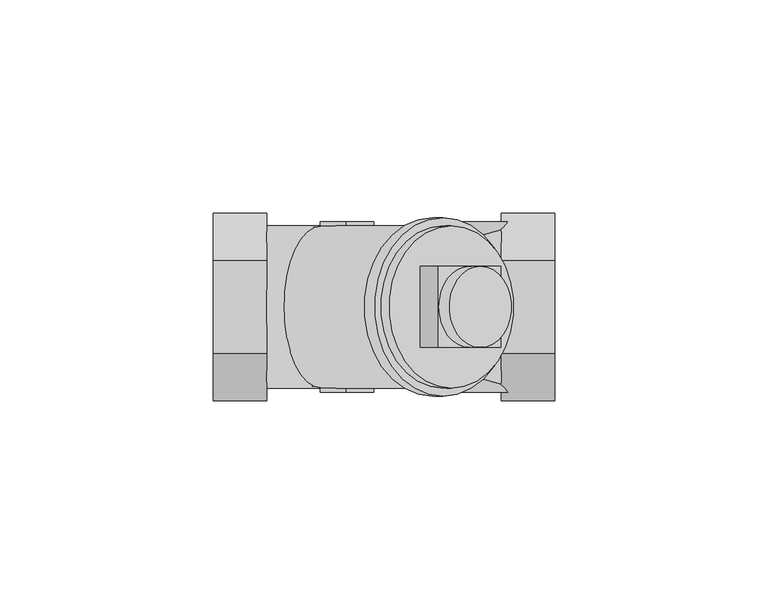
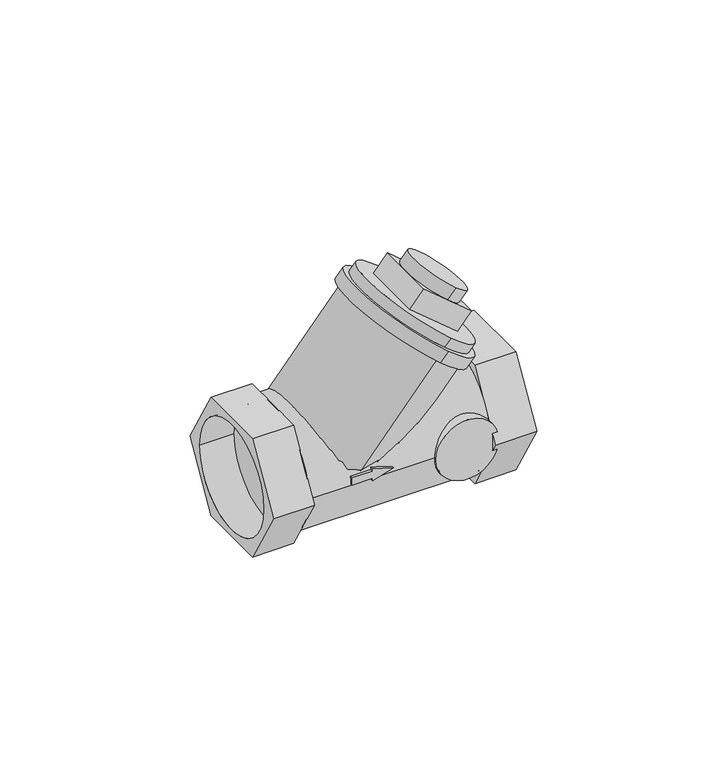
"""IFC4 building model written with IfcOpenShell, lengths in millimetres: valve geometry, 400_5-_KOMF_terugslagklep_PN_25_brons_DN15-50 : DN25 1''."""

import ifcopenshell
import ifcopenshell.guid

model = None  # the IFC model being written
_history = None  # IfcOwnerHistory: only IFC2X3 demands one
_inside = {}  # id of a spatial element -> (the spatial element, [elements in it])
_under = {}  # id of a project, library or spatial element -> (it, [spatial elements below it])
_declared = {}  # id of a project -> (the project, [libraries it declares])
_typed = {}  # id of a type object -> (the type object, [elements of that type])
_made_of = {}  # id of a material, layer set ... -> (it, [elements and type objects made of it])


def new_model(schema):
    """Start an empty IFC model of exactly this schema.

    Asked for "IFC4X3", IfcOpenShell would pick the latest addendum, in which some entities
    have other attributes; the version numbers below select the first issue.
    IFC2X3 requires an IfcOwnerHistory on every rooted entity: one is made here for all.
    """
    global model, _history
    if schema == "IFC4X3":
        model = ifcopenshell.file(schema_version=(4, 3, 0, 0))
    else:
        model = ifcopenshell.file(schema=schema)
    _inside.clear()
    _under.clear()
    _declared.clear()
    _typed.clear()
    _made_of.clear()
    _history = None
    if model.schema == "IFC2X3":
        org = make("IfcOrganization", Name="unknown")
        user = make(
            "IfcPersonAndOrganization",
            ThePerson=make("IfcPerson", FamilyName="unknown"),
            TheOrganization=org,
        )
        app = make(
            "IfcApplication",
            ApplicationDeveloper=org,
            Version="unknown",
            ApplicationFullName="unknown",
            ApplicationIdentifier="unknown",
        )
        _history = make(
            "IfcOwnerHistory",
            OwningUser=user,
            OwningApplication=app,
            ChangeAction="ADDED",
            CreationDate=0,
        )
    return model


def make(cls, **values):
    """One entity of the class cls with the attributes given. An attribute that is None is left unset."""
    return model.create_entity(
        cls, **{name: value for name, value in values.items() if value is not None}
    )


def rooted(cls, **values):
    """An entity with a GlobalId (a new one), such as an element, a storey or a relation."""
    return make(cls, GlobalId=ifcopenshell.guid.new(), OwnerHistory=_history, **values)


def si_unit(unit_type, name, prefix=None):
    """IfcSIUnit, for example si_unit("LENGTHUNIT", "METRE", prefix="MILLI")."""
    return make("IfcSIUnit", UnitType=unit_type, Prefix=prefix, Name=name)


def assignment(units):
    """IfcUnitAssignment: the units of a project."""
    return None if units is None else make("IfcUnitAssignment", Units=units)


def point(xyz):
    """IfcCartesianPoint."""
    return None if xyz is None else make("IfcCartesianPoint", Coordinates=xyz)


def direction(xyz):
    """IfcDirection."""
    return None if xyz is None else make("IfcDirection", DirectionRatios=xyz)


def frame(location, z_axis=None, x_axis=None):
    """IfcAxis2Placement3D, a coordinate frame: its origin and axes. An axis left out is left unset."""
    return make(
        "IfcAxis2Placement3D",
        Location=point(location),
        Axis=direction(z_axis),
        RefDirection=direction(x_axis),
    )


def frame_2d(location, x_axis=None):
    """IfcAxis2Placement2D, a coordinate frame in the plane: its origin and x axis."""
    return make(
        "IfcAxis2Placement2D", Location=point(location), RefDirection=direction(x_axis)
    )


def origin():
    """The frame at (0, 0, 0) with its axes left unset."""
    return frame((0.0, 0.0, 0.0))


def origin_2d():
    """The frame at (0, 0) in the plane with its x axis left unset."""
    return frame_2d((0.0, 0.0))


def place(relative_to, where):
    """IfcLocalPlacement: puts the frame where relative to a parent placement (None: the world)."""
    return make(
        "IfcLocalPlacement", PlacementRelTo=relative_to, RelativePlacement=where
    )


def context(
    kind, dimensions, precision=None, world=None, true_north=None, identifier=None
):
    """IfcGeometricRepresentationContext, for example the 3D "Model" context."""
    return make(
        "IfcGeometricRepresentationContext",
        ContextIdentifier=identifier,
        ContextType=kind,
        CoordinateSpaceDimension=dimensions,
        Precision=precision,
        WorldCoordinateSystem=world,
        TrueNorth=true_north,
    )


def project(units=None, contexts=None):
    """IfcProject with its units and contexts."""
    return rooted(
        "IfcProject",
        Name="project",
        RepresentationContexts=contexts,
        UnitsInContext=assignment(units),
    )


def spatial(cls, under=None, at=None, **own):
    """A site, building, storey or space (cls), placed at a placement, below another one or the project."""
    s = rooted(cls, ObjectPlacement=at, **own)
    if under is not None:
        _under.setdefault(under.id(), (under, []))[1].append(s)
    return s


def polyline(points):
    """IfcPolyline through the points."""
    return make("IfcPolyline", Points=[point(p) for p in points])


def circle_curve(where, radius):
    """IfcCircle in the frame where."""
    return make("IfcCircle", Position=where, Radius=radius)


def ellipse_curve(where, semi_axis1, semi_axis2):
    """IfcEllipse in the frame where."""
    return make(
        "IfcEllipse", Position=where, SemiAxis1=semi_axis1, SemiAxis2=semi_axis2
    )


def trimmed(basis, trim1, trim2, sense, master):
    """IfcTrimmedCurve: the piece of a basis curve between two trims."""
    return make(
        "IfcTrimmedCurve",
        BasisCurve=basis,
        Trim1=trim1,
        Trim2=trim2,
        SenseAgreement=sense,
        MasterRepresentation=master,
    )


def segment(curve, same_sense, transition):
    """IfcCompositeCurveSegment."""
    return make(
        "IfcCompositeCurveSegment",
        Transition=transition,
        SameSense=same_sense,
        ParentCurve=curve,
    )


def composite_curve(segments, self_intersect=None):
    """IfcCompositeCurve: segments joined end to end."""
    return make("IfcCompositeCurve", Segments=segments, SelfIntersect=self_intersect)


def outline(outer, holes=None, kind="AREA"):
    """IfcArbitraryClosedProfileDef: a profile drawn as a closed curve; with holes, ...WithVoids."""
    if holes is None:
        return make("IfcArbitraryClosedProfileDef", ProfileType=kind, OuterCurve=outer)
    return make(
        "IfcArbitraryProfileDefWithVoids",
        ProfileType=kind,
        OuterCurve=outer,
        InnerCurves=holes,
    )


def extrude(swept, where, along, depth):
    """IfcExtrudedAreaSolid: the profile swept, set in the frame where, extruded along a direction by depth."""
    return make(
        "IfcExtrudedAreaSolid",
        SweptArea=swept,
        Position=where,
        ExtrudedDirection=direction(along),
        Depth=depth,
    )


def shape(context_of_items, identifier, shape_type, items):
    """IfcShapeRepresentation: the items that make up one representation, for example the "Body"."""
    return make(
        "IfcShapeRepresentation",
        ContextOfItems=context_of_items,
        RepresentationIdentifier=identifier,
        RepresentationType=shape_type,
        Items=items,
    )


def source(mapping_origin, context_of_items, identifier, shape_type, items):
    """IfcRepresentationMap: a shape defined once, which mapped items show again and again."""
    return make(
        "IfcRepresentationMap",
        MappingOrigin=mapping_origin,
        MappedRepresentation=shape(context_of_items, identifier, shape_type, items),
    )


def transform(
    local_origin,
    x_axis=None,
    y_axis=None,
    z_axis=None,
    scale=None,
    scale2=None,
    scale3=None,
    uniform=True,
):
    """IfcCartesianTransformationOperator3D, or its non-uniform kind. x_axis, y_axis, z_axis: its Axis1, 2, 3."""
    if uniform:
        return make(
            "IfcCartesianTransformationOperator3D",
            Axis1=direction(x_axis),
            Axis2=direction(y_axis),
            LocalOrigin=point(local_origin),
            Scale=scale,
            Axis3=direction(z_axis),
        )
    return make(
        "IfcCartesianTransformationOperator3DnonUniform",
        Axis1=direction(x_axis),
        Axis2=direction(y_axis),
        LocalOrigin=point(local_origin),
        Scale=scale,
        Axis3=direction(z_axis),
        Scale2=scale2,
        Scale3=scale3,
    )


def mapped(mapping_source, mapping_target):
    """IfcMappedItem: shows the shape of a source again, moved by a transform."""
    return make(
        "IfcMappedItem", MappingSource=mapping_source, MappingTarget=mapping_target
    )


def made_of(thing, what):
    """Note that an element or type object is made of a material, layer set ...; save() writes the relation."""
    if what is not None:
        _made_of.setdefault(what.id(), (what, []))[1].append(thing)
    return thing


def element(
    cls,
    number,
    at=None,
    inside=None,
    cuts=None,
    type_object=None,
    material=None,
    context=None,
    identifier="Body",
    shape_type=None,
    held_by="IfcProductDefinitionShape",
    body=None,
    shapes=None,
    **own,
):
    """One element of the class cls, such as IfcWall. Its Tag is "e" and its number.

    at: its placement. inside: the storey or other place that contains it. cuts: it is an
    opening in that element (IfcRelVoidsElement). A single representation is given by context,
    identifier, shape_type and body (its items); several are given by shapes. held_by: the class
    of the entity that holds the representations. save() writes the other relations.
    """
    e = rooted(cls, Tag="e%d" % number, ObjectPlacement=at, **own)
    if body is not None:
        shapes = [shape(context, identifier, shape_type, body)]
    if shapes is not None:
        e.Representation = make(held_by, Representations=shapes)
    if inside is not None:
        _inside.setdefault(inside.id(), (inside, []))[1].append(e)
    if cuts is not None:
        rooted(
            "IfcRelVoidsElement", RelatingBuildingElement=cuts, RelatedOpeningElement=e
        )
    if type_object is not None:
        _typed.setdefault(type_object.id(), (type_object, []))[1].append(e)
    return made_of(e, material)


def aggregate(whole, parts):
    """IfcRelAggregates: a whole, such as a stair, and the parts it consists of."""
    return rooted("IfcRelAggregates", RelatingObject=whole, RelatedObjects=parts)


def save(model, path):
    """Write the relations noted so far, then the file.

    IfcRelAggregates (storeys below a building ...), IfcRelContainedInSpatialStructure (elements
    in a storey), IfcRelDefinesByType, IfcRelAssociatesMaterial and IfcRelDeclares: one each for
    every whole, place, type object, material and project.
    """
    for whole, parts in _under.values():
        aggregate(whole, parts)
    for where, things in _inside.values():
        rooted(
            "IfcRelContainedInSpatialStructure",
            RelatedElements=things,
            RelatingStructure=where,
        )
    for kind, things in _typed.values():
        rooted("IfcRelDefinesByType", RelatedObjects=things, RelatingType=kind)
    for what, things in _made_of.values():
        rooted("IfcRelAssociatesMaterial", RelatedObjects=things, RelatingMaterial=what)
    for by, libraries in _declared.values():
        rooted("IfcRelDeclares", RelatingContext=by, RelatedDefinitions=libraries)
    model.write(path)


def plane_surface(at):
    """IfcPlane: the flat surface through the origin of the frame at, square to its z axis."""
    return make("IfcPlane", Position=at)


def cylinder_surface(at, radius):
    """IfcCylindricalSurface: all points at the distance radius from the z axis of the frame at."""
    return make("IfcCylindricalSurface", Position=at, Radius=radius)


def revolved_surface(curve, axis_point, axis_direction):
    """IfcSurfaceOfRevolution: the curve turned about the line through axis_point along axis_direction."""
    return make(
        "IfcSurfaceOfRevolution",
        SweptCurve=make("IfcArbitraryOpenProfileDef", ProfileType="CURVE", Curve=curve),
        AxisPosition=make("IfcAxis1Placement", Location=point(axis_point), Axis=direction(axis_direction)),
    )


def advanced_brep(points, edges, surfaces, faces):
    """IfcAdvancedBrep: a solid bounded by faces that lie on surfaces and meet in shared edges.

    An edge is (start, end): straight between two places in points (the first is 0);
    or (start, end, curve); or (start, end, curve, False) where it runs against its curve.
    A face is (place in surfaces, loops), or (place, loops, False) where it looks against
    its surface's normal. A loop lists edges by number (the first is 1), with a minus sign
    where the edge is run from its end to its start. The first loop is the outer one.
    """
    corners = [point(p) for p in points]
    vertices = [make("IfcVertexPoint", VertexGeometry=c) for c in corners]
    made = []
    for start, end, *more in edges:
        made.append(
            make(
                "IfcEdgeCurve",
                EdgeStart=vertices[start],
                EdgeEnd=vertices[end],
                EdgeGeometry=more[0] if more else make("IfcPolyline", Points=[corners[start], corners[end]]),
                SameSense=more[1] if len(more) > 1 else True,
            )
        )
    hull = []
    for where, loops, *sense in faces:
        bounds = []
        for j, loop in enumerate(loops):
            ring = [make("IfcOrientedEdge", EdgeElement=made[abs(k) - 1], Orientation=k > 0) for k in loop]
            bounds.append(
                make(
                    "IfcFaceOuterBound" if j == 0 else "IfcFaceBound",
                    Bound=make("IfcEdgeLoop", EdgeList=ring),
                    Orientation=True,
                )
            )
        hull.append(make("IfcAdvancedFace", Bounds=bounds, FaceSurface=surfaces[where], SameSense=sense[0] if sense else True))
    return make("IfcAdvancedBrep", Outer=make("IfcClosedShell", CfsFaces=hull))


def valve_452bbaa6(model_context):
    return source(origin(), model_context, "Body", "SolidModel", [
        extrude(outline(composite_curve([segment(trimmed(circle_curve(origin_2d(), 19.0), [point((-19.0, 0.0))], [point((19.0, 0.0))], False, "CARTESIAN"), True, "CONTINUOUS"), segment(trimmed(circle_curve(origin_2d(), 19.0), [point((19.0, 0.0))], [point((-19.0, 0.0))], False, "CARTESIAN"), True, "CONTINUOUS")], self_intersect=False)), frame((-35.9929699, 0.0, 0.0), z_axis=(1.0, 0.0, 0.0), x_axis=(0.0, 1.0, 0.0)), (0.0, 0.0, 1.0), 54.9929669),
        extrude(outline(composite_curve([segment(trimmed(circle_curve(frame_2d((0.0, 11.499997)), 9.5), [point((0.0, 1.999997))], [point((0.0, 20.999997))], False, "CARTESIAN"), True, "CONTINUOUS"), segment(trimmed(circle_curve(frame_2d((0.0, 11.499997)), 9.5), [point((0.0, 20.999997))], [point((0.0, 1.999997))], False, "CARTESIAN"), True, "CONTINUOUS")], self_intersect=False)), frame((0.0, -20.0, 0.0), z_axis=(0.0, 1.0, 0.0), x_axis=(0.0, 0.0, 1.0)), (0.0, 0.0, 1.0), 40.0),
        advanced_brep(
        [(-35.9929699, -10.9696551, 19.0), (-35.9929699, -16.4544827, 9.5), (-35.9929699, -21.9393102, 0.0), (-35.9929699, -16.4544827, -9.5), (-35.9929699, -10.9696551, -19.0), (-35.9929699, 0.0, -19.0), (-35.9929699, 10.9696551, -19.0), (-35.9929699, 16.4544827, -9.5), (-35.9929699, 21.9393102, 0.0), (-35.9929699, 16.4544827, 9.5), (-35.9929699, 10.9696551, 19.0), (-35.9929699, 0.0, 19.0), (-35.9929699, 9.6278481, 10.5288638), (-35.9929699, -9.6278481, 10.5288638), (-48.500003, -10.9696551, 19.0), (-48.500003, 10.9696551, 19.0), (-48.500003, 21.9393102, 0.0), (-48.500003, 10.9696551, -19.0), (-48.500003, -10.9696551, -19.0), (-48.500003, -21.9393102, 0.0), (-48.500003, -16.85, 0.0), (-48.500003, 16.85, 0.0), (-38.000003, -16.85, 0.0), (-38.000003, 16.85, 0.0), (31.499997, -10.9696551, 19.0), (31.499997, -21.9393102, 0.0), (31.499997, -10.9696551, -19.0), (31.499997, 10.9696551, -19.0), (31.499997, 21.9393102, 0.0), (31.499997, 10.9696551, 19.0), (31.499997, 16.85, 0.0), (31.499997, -16.85, 0.0), (18.999997, 4.9641122, 19.0), (18.999997, 10.9696551, 19.0), (18.999997, 16.4544827, 9.5), (18.999997, 21.9393102, 0.0), (18.999997, 16.4544827, -9.5), (18.999997, 10.9696551, -19.0), (18.999997, 0.0, -19.0), (18.999997, -10.9696551, -19.0), (18.999997, -16.4544827, -9.5), (18.999997, -21.9393102, 0.0), (18.999997, -16.4544827, 9.5), (18.999997, -10.9696551, 19.0), (18.999997, -4.9641122, 19.0), (18.999997, -3.8094128, 18.6141982), (18.999997, 3.8094128, 18.6141982), (-23.4451586, -20.0, 3.1116273), (-23.4451586, -20.0, 0.829442), (-17.303428, -20.0, 0.829442), (-17.303428, -20.0, 0.0332575), (-10.8483948, -20.0, 1.9705347), (-17.303428, -20.0, 3.9078118), (-17.303428, -20.0, 3.1116273), (-23.4451586, 20.0, 3.1116273), (-17.303428, 20.0, 3.1116273), (-17.303428, 20.0, 3.9078118), (-10.8483948, 20.0, 1.9705347), (-17.303428, 20.0, 0.0332575), (-17.303428, 20.0, 0.829442), (-23.4451586, 20.0, 0.829442), (-23.4451586, -18.8944314, 3.1116273), (-23.4451586, -18.9925182, 0.829442), (-23.4451586, 18.9925182, 0.829442), (-23.4451586, 18.8944314, 3.1116273), (-22.7491741, -19.0, 0.829442), (-21.6664145, -18.9818868, 0.829442), (-17.303428, -18.5363712, 0.829442), (-17.303428, -18.9818868, 0.829442), (-17.303428, 18.9818868, 0.829442), (-17.303428, 18.5363712, 0.829442), (-21.6664145, 18.9818868, 0.829442), (-22.7491741, 19.0, 0.829442), (-17.303428, -18.4137229, 0.0332575), (-17.303428, -18.9999709, 0.0332575), (-17.303428, 18.9999709, 0.0332575), (-17.303428, 18.4137229, 0.0332575), (-10.8483948, -17.0506465, 1.9705347), (-10.8483948, -18.8975393, 1.9705347), (-10.8483948, 18.8975393, 1.9705347), (-10.8483948, 17.0506465, 1.9705347), (-15.9414242, -18.6750276, 3.4990488), (-17.303428, -18.8730228, 3.9078118), (-17.303428, 18.8730228, 3.9078118), (-15.9414242, 18.6750276, 3.4990488), (-17.303428, -18.8065008, 3.1116273), (-17.303428, 18.8065008, 3.1116273), (-20.8341933, -19.0, 3.1116273), (-20.8341933, 19.0, 3.1116273), (18.8058001, 0.0, 35.5733555), (18.8058001, 9.5, 35.5733555), (11.5283779, 9.5, 41.6798378), (4.2509557, 9.5, 47.7863201), (4.2509557, 0.0, 47.7863201), (4.2509557, -9.5, 47.7863201), (11.5283779, -9.5, 41.6798378), (18.8058001, -9.5, 35.5733555), (0.024714, 9.5, 42.7496814), (0.024714, -9.5, 42.7496814), (14.5795584, -9.5, 30.5367168), (14.5795584, 9.5, 30.5367168), (-23.4451586, -19.0, 0.0), (2.9230903, -19.0, 31.4244553), (2.9230903, 19.0, 31.4244553), (-23.4451586, 19.0, 0.0), (5.3604438, 20.9, 34.3291801), (5.3604438, -20.9, 34.3291801), (5.3604438, 19.0, 34.3291801), (5.3604438, -19.0, 34.3291801), (7.3021362, -19.0, 36.6431991), (7.3021362, 19.0, 36.6431991), (14.0957503, 9.5, 44.739513), (14.0957503, -9.5, 44.739513), (2.9230903, -20.9, 31.4244553), (2.9230903, 20.9, 31.4244553), (18.4903984, 4.8825631, 18.3619328), (18.4903984, -4.8825631, 18.3619328), (20.999997, -16.85, 0.0), (20.999997, 16.85, 0.0)],
        [
            (0, 1),
            (1, 2),
            (2, 3),
            (3, 4),
            (4, 5),
            (5, 6),
            (6, 7),
            (7, 8),
            (8, 9),
            (9, 10),
            (10, 11),
            (11, 0),
            (12, 13),
            (13, 12, ellipse_curve(frame((-35.9929699, 0.0, -14.9538992), z_axis=(-1.0, 0.0, 0.0), x_axis=(0.0, 0.0, 1.0)), 29.5587527, 19.0)),
            (14, 15),
            (15, 16),
            (16, 17),
            (17, 18),
            (18, 19),
            (19, 14),
            (20, 21, circle_curve(frame((-48.500003, 0.0, 0.0), z_axis=(1.0, 0.0, 0.0), x_axis=(0.0, 1.0, 0.0)), 16.85)),
            (21, 20, circle_curve(frame((-48.500003, 0.0, 0.0), z_axis=(1.0, 0.0, 0.0), x_axis=(0.0, 1.0, 0.0)), 16.85)),
            (19, 2),
            (0, 14),
            (18, 4),
            (17, 6),
            (16, 8),
            (15, 10),
            (22, 23, circle_curve(frame((-38.000003, 0.0, 0.0), z_axis=(-1.0, 0.0, 0.0), x_axis=(0.0, 1.0, 0.0)), 16.85)),
            (23, 22, circle_curve(frame((-38.000003, 0.0, 0.0), z_axis=(-1.0, 0.0, 0.0), x_axis=(0.0, 1.0, 0.0)), 16.85)),
            (24, 25),
            (25, 26),
            (26, 27),
            (27, 28),
            (28, 29),
            (29, 24),
            (30, 31, circle_curve(frame((31.499997, 0.0, 0.0), z_axis=(-1.0, 0.0, 0.0), x_axis=(0.0, 1.0, 0.0)), 16.85)),
            (31, 30, circle_curve(frame((31.499997, 0.0, 0.0), z_axis=(-1.0, 0.0, 0.0), x_axis=(0.0, 1.0, 0.0)), 16.85)),
            (32, 33),
            (33, 34),
            (34, 35),
            (35, 36),
            (36, 37),
            (37, 38),
            (38, 39),
            (39, 40),
            (40, 41),
            (41, 42),
            (42, 43),
            (43, 44),
            (44, 45, ellipse_curve(frame((18.999997, 0.0, 50.5841667), z_axis=(1.0, 0.0, 0.0), x_axis=(0.0, 0.0, 1.0)), 32.514628, 20.9)),
            (45, 46, ellipse_curve(frame((18.999997, 0.0, 50.5841667), z_axis=(1.0, 0.0, 0.0), x_axis=(0.0, 0.0, 1.0)), 32.514628, 20.9)),
            (46, 32, ellipse_curve(frame((18.999997, 0.0, 50.5841667), z_axis=(1.0, 0.0, 0.0), x_axis=(0.0, 0.0, 1.0)), 32.514628, 20.9)),
            (24, 43),
            (41, 25),
            (39, 26),
            (37, 27),
            (35, 28),
            (33, 29),
            (32, 44, ellipse_curve(frame((-7.5022656, 0.0, 19.0), z_axis=(0.0, 0.0, -1.0), x_axis=(1.0, 0.0, 0.0)), 27.2830123, 20.9)),
            (47, 48),
            (48, 49),
            (49, 50),
            (50, 51),
            (51, 52),
            (52, 53),
            (53, 47),
            (54, 55),
            (55, 56),
            (56, 57),
            (57, 58),
            (58, 59),
            (59, 60),
            (60, 54),
            (47, 61),
            (61, 62, ellipse_curve(frame((-23.4451586, 0.0, 0.0), z_axis=(1.0, 0.0, 0.0), x_axis=(0.0, 0.0, 1.0)), 29.5587527, 19.0)),
            (62, 48),
            (60, 63),
            (63, 64, ellipse_curve(frame((-23.4451586, 0.0, 0.0), z_axis=(1.0, 0.0, 0.0), x_axis=(0.0, 0.0, 1.0)), 29.5587527, 19.0)),
            (64, 54),
            (62, 65, ellipse_curve(frame((-22.7491741, 0.0, 0.829442), z_axis=(0.0, 0.0, 1.0), x_axis=(1.0, 0.0, 0.0)), 24.8027385, 19.0)),
            (65, 66, ellipse_curve(frame((-22.7491741, 0.0, 0.829442), z_axis=(0.0, 0.0, 1.0), x_axis=(1.0, 0.0, 0.0)), 24.8027385, 19.0)),
            (66, 67, ellipse_curve(frame((-22.7491741, 0.0, 0.829442), z_axis=(0.0, 0.0, 1.0), x_axis=(1.0, 0.0, 0.0)), 24.8027385, 19.0)),
            (67, 68),
            (68, 49),
            (59, 69),
            (69, 70),
            (70, 71, ellipse_curve(frame((-22.7491741, 0.0, 0.829442), z_axis=(0.0, 0.0, 1.0), x_axis=(1.0, 0.0, 0.0)), 24.8027385, 19.0)),
            (71, 72, ellipse_curve(frame((-22.7491741, 0.0, 0.829442), z_axis=(0.0, 0.0, 1.0), x_axis=(1.0, 0.0, 0.0)), 24.8027385, 19.0)),
            (72, 63, ellipse_curve(frame((-22.7491741, 0.0, 0.829442), z_axis=(0.0, 0.0, 1.0), x_axis=(1.0, 0.0, 0.0)), 24.8027385, 19.0)),
            (67, 73, ellipse_curve(frame((-17.303428, 0.0, 7.3194295), z_axis=(1.0, 0.0, 0.0), x_axis=(0.0, 0.0, 1.0)), 29.5587527, 19.0)),
            (73, 74),
            (74, 50),
            (58, 75),
            (75, 76),
            (76, 70, ellipse_curve(frame((-17.303428, 0.0, 7.3194295), z_axis=(1.0, 0.0, 0.0), x_axis=(0.0, 0.0, 1.0)), 29.5587527, 19.0)),
            (73, 77, ellipse_curve(frame((-25.4751284, 0.0, -2.4192238), z_axis=(-0.28745231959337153, 0.0, 0.9577949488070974), x_axis=(0.9577949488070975, 0.0, 0.28745231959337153)), 34.6119908, 19.0)),
            (77, 78),
            (78, 51),
            (57, 79),
            (79, 80),
            (80, 76, ellipse_curve(frame((-25.4751284, 0.0, -2.4192238), z_axis=(-0.28745231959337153, 0.0, 0.9577949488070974), x_axis=(0.9577949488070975, 0.0, 0.28745231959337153)), 34.6119908, 19.0)),
            (77, 81, ellipse_curve(frame((-19.5902305, 0.0, 4.5941244), z_axis=(-0.28745231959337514, 0.0, -0.9577949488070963), x_axis=(0.9577949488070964, 0.0, -0.28745231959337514)), 20.6862548, 19.0)),
            (81, 82, ellipse_curve(frame((-19.5902305, 0.0, 4.5941244), z_axis=(-0.28745231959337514, 0.0, -0.9577949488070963), x_axis=(0.9577949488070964, 0.0, -0.28745231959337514)), 20.6862548, 19.0)),
            (82, 52),
            (56, 83),
            (83, 84, ellipse_curve(frame((-19.5902305, 0.0, 4.5941244), z_axis=(-0.28745231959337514, 0.0, -0.9577949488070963), x_axis=(0.9577949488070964, 0.0, -0.28745231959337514)), 20.6862548, 19.0)),
            (84, 80, ellipse_curve(frame((-19.5902305, 0.0, 4.5941244), z_axis=(-0.28745231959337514, 0.0, -0.9577949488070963), x_axis=(0.9577949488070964, 0.0, -0.28745231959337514)), 20.6862548, 19.0)),
            (82, 85, ellipse_curve(frame((-17.303428, 0.0, 7.3194295), z_axis=(1.0, 0.0, 0.0), x_axis=(0.0, 0.0, 1.0)), 29.5587527, 19.0)),
            (85, 53),
            (55, 86),
            (86, 83, ellipse_curve(frame((-17.303428, 0.0, 7.3194295), z_axis=(1.0, 0.0, 0.0), x_axis=(0.0, 0.0, 1.0)), 29.5587527, 19.0)),
            (85, 87, ellipse_curve(frame((-20.8341933, 0.0, 3.1116273), z_axis=(0.0, 0.0, -1.0), x_axis=(1.0, 0.0, 0.0)), 24.8027385, 19.0)),
            (87, 61, ellipse_curve(frame((-20.8341933, 0.0, 3.1116273), z_axis=(0.0, 0.0, -1.0), x_axis=(1.0, 0.0, 0.0)), 24.8027385, 19.0)),
            (64, 88, ellipse_curve(frame((-20.8341933, 0.0, 3.1116273), z_axis=(0.0, 0.0, -1.0), x_axis=(1.0, 0.0, 0.0)), 24.8027385, 19.0)),
            (88, 86, ellipse_curve(frame((-20.8341933, 0.0, 3.1116273), z_axis=(0.0, 0.0, -1.0), x_axis=(1.0, 0.0, 0.0)), 24.8027385, 19.0)),
            (89, 90),
            (90, 91),
            (91, 89, circle_curve(frame((11.5283779, 0.0, 41.6798378), z_axis=(-0.64278760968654, 0.0, -0.7660444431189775), x_axis=(0.0, -1.0, 0.0)), 9.5)),
            (92, 93),
            (93, 91, circle_curve(frame((11.5283779, 0.0, 41.6798378), z_axis=(-0.64278760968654, 0.0, -0.7660444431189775), x_axis=(0.0, -1.0, 0.0)), 9.5)),
            (91, 92),
            (93, 94),
            (94, 95),
            (95, 93, circle_curve(frame((11.5283779, 0.0, 41.6798378), z_axis=(-0.64278760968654, 0.0, -0.7660444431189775), x_axis=(0.0, -1.0, 0.0)), 9.5)),
            (95, 96),
            (96, 89),
            (89, 95, circle_curve(frame((11.5283779, 0.0, 41.6798378), z_axis=(-0.64278760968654, 0.0, -0.7660444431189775), x_axis=(0.0, -1.0, 0.0)), 9.5)),
            (92, 97),
            (97, 98),
            (98, 94),
            (98, 99),
            (99, 96),
            (99, 100),
            (100, 90),
            (100, 97),
            (13, 101, circle_curve(frame((-23.4451586, 0.0, 0.0), z_axis=(0.64278760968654, 0.0, 0.7660444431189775), x_axis=(0.0, -1.0, 0.0)), 19.0)),
            (101, 65),
            (87, 102),
            (102, 103, circle_curve(frame((2.9230903, 0.0, 31.4244553), z_axis=(-0.64278760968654, 0.0, -0.7660444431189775), x_axis=(0.0, -1.0, 0.0)), 19.0)),
            (103, 88),
            (72, 104),
            (104, 12, circle_curve(frame((-23.4451586, 0.0, 0.0), z_axis=(0.64278760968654, 0.0, 0.7660444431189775), x_axis=(0.0, -1.0, 0.0)), 19.0)),
            (101, 104, circle_curve(frame((-23.4451586, 0.0, 0.0), z_axis=(0.64278760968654, 0.0, 0.7660444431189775), x_axis=(0.0, -1.0, 0.0)), 19.0)),
            (103, 102, circle_curve(frame((2.9230903, 0.0, 31.4244553), z_axis=(-0.64278760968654, 0.0, -0.7660444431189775), x_axis=(0.0, -1.0, 0.0)), 19.0)),
            (105, 106, circle_curve(frame((5.3604438, 0.0, 34.3291801), z_axis=(0.64278760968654, 0.0, 0.7660444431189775), x_axis=(0.0, -1.0, 0.0)), 20.9)),
            (106, 105, circle_curve(frame((5.3604438, 0.0, 34.3291801), z_axis=(0.64278760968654, 0.0, 0.7660444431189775), x_axis=(0.0, -1.0, 0.0)), 20.9)),
            (107, 108, circle_curve(frame((5.3604438, 0.0, 34.3291801), z_axis=(-0.64278760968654, 0.0, -0.7660444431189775), x_axis=(0.0, -1.0, 0.0)), 19.0)),
            (108, 107, circle_curve(frame((5.3604438, 0.0, 34.3291801), z_axis=(-0.64278760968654, 0.0, -0.7660444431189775), x_axis=(0.0, -1.0, 0.0)), 19.0)),
            (109, 110, circle_curve(frame((7.3021362, 0.0, 36.6431991), z_axis=(0.64278760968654, 0.0, 0.7660444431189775), x_axis=(0.0, -1.0, 0.0)), 19.0)),
            (110, 109, circle_curve(frame((7.3021362, 0.0, 36.6431991), z_axis=(0.64278760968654, 0.0, 0.7660444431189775), x_axis=(0.0, -1.0, 0.0)), 19.0)),
            (109, 108),
            (107, 110),
            (111, 112, circle_curve(frame((14.0957503, 0.0, 44.739513), z_axis=(0.64278760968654, 0.0, 0.7660444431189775), x_axis=(0.0, -1.0, 0.0)), 9.5)),
            (112, 111, circle_curve(frame((14.0957503, 0.0, 44.739513), z_axis=(0.64278760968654, 0.0, 0.7660444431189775), x_axis=(0.0, -1.0, 0.0)), 9.5)),
            (111, 91),
            (95, 112),
            (113, 114, circle_curve(frame((2.9230903, 0.0, 31.4244553), z_axis=(-0.64278760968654, 0.0, -0.7660444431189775), x_axis=(0.0, -1.0, 0.0)), 20.9)),
            (114, 115, circle_curve(frame((2.9230903, 0.0, 31.4244553), z_axis=(-0.64278760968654, 0.0, -0.7660444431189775), x_axis=(0.0, -1.0, 0.0)), 20.9)),
            (115, 116, circle_curve(frame((2.9230903, 0.0, 31.4244553), z_axis=(-0.64278760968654, 0.0, -0.7660444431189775), x_axis=(0.0, -1.0, 0.0)), 20.9)),
            (116, 113, circle_curve(frame((2.9230903, 0.0, 31.4244553), z_axis=(-0.64278760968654, 0.0, -0.7660444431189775), x_axis=(0.0, -1.0, 0.0)), 20.9)),
            (113, 106),
            (105, 114),
            (23, 21),
            (20, 22),
            (117, 118, circle_curve(frame((20.999997, 0.0, 0.0), z_axis=(1.0, 0.0, 0.0), x_axis=(0.0, 1.0, 0.0)), 16.85)),
            (118, 117, circle_curve(frame((20.999997, 0.0, 0.0), z_axis=(1.0, 0.0, 0.0), x_axis=(0.0, 1.0, 0.0)), 16.85)),
            (117, 31),
            (30, 118),
        ],
        [
            plane_surface(frame((-35.9929699, -21.9393102, 0.0), z_axis=(1.0, 0.0, 0.0), x_axis=(0.0, -0.4999999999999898, -0.8660254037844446))),
            plane_surface(frame((-48.500003, -21.9393102, 0.0), z_axis=(-1.0, 0.0, 0.0), x_axis=(0.0, 0.4999999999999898, 0.8660254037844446))),
            plane_surface(frame((-35.9929699, -10.9696551, 19.0), z_axis=(0.0, -0.8660254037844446, 0.4999999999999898), x_axis=(-1.0, 0.0, 0.0))),
            plane_surface(frame((-35.9929699, -21.9393102, 0.0), z_axis=(0.0, -0.8660254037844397, -0.4999999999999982), x_axis=(-1.0, 0.0, 0.0))),
            plane_surface(frame((-35.9929699, -10.9696551, -19.0), z_axis=(0.0, 0.0, -1.0), x_axis=(-1.0, 0.0, 0.0))),
            plane_surface(frame((-35.9929699, 10.9696551, -19.0), z_axis=(0.0, 0.8660254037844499, -0.49999999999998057), x_axis=(-1.0, 0.0, 0.0))),
            plane_surface(frame((-35.9929699, 21.9393102, 0.0), z_axis=(0.0, 0.8660254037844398, 0.49999999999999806), x_axis=(-1.0, 0.0, 0.0))),
            plane_surface(frame((-35.9929699, 10.9696551, 19.0), z_axis=(0.0, 0.0, 1.0), x_axis=(-1.0, 0.0, 0.0))),
            plane_surface(frame((-38.000003, 16.85, 0.0), z_axis=(-1.0, 0.0, 0.0), x_axis=(0.0, 0.0, 1.0))),
            plane_surface(frame((31.499997, -21.9393102, 0.0), z_axis=(1.0000000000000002, 0.0, 0.0), x_axis=(0.0, -0.49999999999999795, -0.8660254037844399))),
            plane_surface(frame((18.999997, -21.9393102, 0.0), z_axis=(-1.0000000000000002, 0.0, 0.0), x_axis=(0.0, 0.49999999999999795, 0.8660254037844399))),
            plane_surface(frame((31.499997, -10.9696551, 19.0), z_axis=(0.0, -0.8660254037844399, 0.49999999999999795), x_axis=(-1.0, 0.0, 0.0))),
            plane_surface(frame((31.499997, -21.9393102, 0.0), z_axis=(0.0, -0.8660254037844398, -0.49999999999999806), x_axis=(-1.0, 0.0, 0.0))),
            plane_surface(frame((31.499997, -10.9696551, -19.0), z_axis=(0.0, 0.0, -1.0), x_axis=(-1.0, 0.0, 0.0))),
            plane_surface(frame((31.499997, 10.9696551, -19.0), z_axis=(0.0, 0.8660254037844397, -0.4999999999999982), x_axis=(-1.0, 0.0, 0.0))),
            plane_surface(frame((31.499997, 21.9393102, 0.0), z_axis=(0.0, 0.8660254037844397, 0.49999999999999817), x_axis=(-1.0, 0.0, 0.0))),
            plane_surface(frame((31.499997, 10.9696551, 19.0), z_axis=(0.0, 0.0, 1.0), x_axis=(-1.0, 0.0, 0.0))),
            plane_surface(frame((-23.4451586, -20.0, 0.829442), z_axis=(0.0, -1.0, 0.0), x_axis=(0.0, 0.0, -1.0))),
            plane_surface(frame((-23.4451586, 20.0, 0.829442), z_axis=(0.0, 1.0, 0.0), x_axis=(0.0, 0.0, 1.0))),
            plane_surface(frame((-23.4451586, -20.0, 3.1116273), z_axis=(-1.0, 0.0, 0.0), x_axis=(0.0, 1.0, 0.0))),
            plane_surface(frame((-23.4451586, -20.0, 0.829442), z_axis=(0.0, 0.0, -1.0), x_axis=(0.0, 1.0, 0.0))),
            plane_surface(frame((-17.303428, -20.0, 0.829442), z_axis=(-1.0, 0.0, 0.0), x_axis=(0.0, 1.0, 0.0))),
            plane_surface(frame((-17.303428, -20.0, 0.0332575), z_axis=(0.28745231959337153, 0.0, -0.9577949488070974), x_axis=(0.0, 1.0, 0.0))),
            plane_surface(frame((-10.8483948, -20.0, 1.9705347), z_axis=(0.28745231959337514, 0.0, 0.9577949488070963), x_axis=(0.0, 1.0, 0.0))),
            plane_surface(frame((-17.303428, -20.0, 3.9078118), z_axis=(-1.0, 0.0, 0.0), x_axis=(0.0, 1.0, 0.0))),
            plane_surface(frame((-17.303428, -20.0, 3.1116273), z_axis=(0.0, 0.0, 1.0), x_axis=(0.0, 1.0, 0.0))),
            plane_surface(frame((4.2509557, -9.5, 47.7863201), z_axis=(0.64278760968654, 0.0, 0.7660444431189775), x_axis=(0.0, -1.0, 0.0))),
            plane_surface(frame((4.2509557, 9.5, 47.7863201), z_axis=(-0.7660444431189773, 0.0, 0.6427876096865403), x_axis=(-0.6427876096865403, 0.0, -0.7660444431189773))),
            plane_surface(frame((4.2509557, -9.5, 47.7863201), z_axis=(0.0, -1.0000000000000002, 0.0), x_axis=(-0.6427876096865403, 0.0, -0.7660444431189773))),
            plane_surface(frame((18.8058001, -9.5, 35.5733555), z_axis=(0.7660444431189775, 0.0, -0.64278760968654), x_axis=(-0.64278760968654, 0.0, -0.7660444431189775))),
            plane_surface(frame((18.8058001, 9.5, 35.5733555), z_axis=(0.0, 1.0, 0.0), x_axis=(-0.6427876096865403, 0.0, -0.7660444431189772))),
            cylinder_surface(frame((-23.4451586, 0.0, 0.0), z_axis=(0.64278760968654, 0.0, 0.7660444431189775), x_axis=(0.0, -1.0, 0.0)), 19.0),
            plane_surface(frame((5.3604438, -20.9, 34.3291801), z_axis=(0.6427876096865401, 0.0, 0.7660444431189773), x_axis=(0.7660444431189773, 0.0, -0.6427876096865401))),
            plane_surface(frame((7.3021362, -19.0, 36.6431991), z_axis=(0.64278760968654, 0.0, 0.7660444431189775), x_axis=(0.7660444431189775, 0.0, -0.64278760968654))),
            cylinder_surface(frame((5.3604438, 0.0, 34.3291801), z_axis=(0.64278760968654, 0.0, 0.7660444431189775), x_axis=(0.0, -1.0, 0.0)), 19.0),
            plane_surface(frame((14.0957503, -9.5, 44.739513), z_axis=(0.64278760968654, 0.0, 0.7660444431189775), x_axis=(0.7660444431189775, 0.0, -0.64278760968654))),
            cylinder_surface(frame((11.5283779, 0.0, 41.6798378), z_axis=(0.64278760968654, 0.0, 0.7660444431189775), x_axis=(0.0, -1.0, 0.0)), 9.5),
            plane_surface(frame((-23.4451586, -19.0, 0.0), z_axis=(-0.64278760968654, 0.0, -0.7660444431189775), x_axis=(-0.7660444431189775, 0.0, 0.64278760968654))),
            plane_surface(frame((2.9230903, -20.9, 31.4244553), z_axis=(-0.6427876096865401, 0.0, -0.7660444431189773), x_axis=(-0.7660444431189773, 0.0, 0.6427876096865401))),
            cylinder_surface(frame((2.9230903, 0.0, 31.4244553), z_axis=(0.64278760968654, 0.0, 0.7660444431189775), x_axis=(0.0, -1.0, 0.0)), 20.9),
            revolved_surface(polyline([(-38.000003, 16.85, 0.0), (-48.500003, 16.85, 0.0)]), (-48.500003, 0.0, 0.0), (1.0, 0.0, 0.0)),
            plane_surface(frame((20.999997, 16.85, 0.0), z_axis=(1.0, 0.0, 0.0), x_axis=(0.0, 0.0, -1.0))),
            revolved_surface(polyline([(31.499997, 16.85, 0.0), (20.999997, 16.85, 0.0)]), (20.999997, 0.0, 0.0), (1.0, 0.0, 0.0)),
        ],
        [
            (0, [[1, 2, 3, 4, 5, 6, 7, 8, 9, 10, 11, 12], [13, 14]]),
            (1, [[15, 16, 17, 18, 19, 20], [21, 22]]),
            (2, [[-20, 23, -2, -1, 24]]),
            (3, [[-19, 25, -4, -3, -23]]),
            (4, [[-18, 26, -6, -5, -25]]),
            (5, [[-17, 27, -8, -7, -26]]),
            (6, [[-16, 28, -10, -9, -27]]),
            (7, [[-15, -24, -12, -11, -28]]),
            (8, [[29, 30]]),
            (9, [[31, 32, 33, 34, 35, 36], [37, 38]]),
            (10, [[39, 40, 41, 42, 43, 44, 45, 46, 47, 48, 49, 50, 51, 52, 53]]),
            (11, [[-31, 54, -49, -48, 55]]),
            (12, [[-32, -55, -47, -46, 56]]),
            (13, [[-33, -56, -45, -44, 57]]),
            (14, [[-34, -57, -43, -42, 58]]),
            (15, [[-35, -58, -41, -40, 59]]),
            (16, [[-36, -59, -39, 60, -50, -54]]),
            (17, [[61, 62, 63, 64, 65, 66, 67]]),
            (18, [[68, 69, 70, 71, 72, 73, 74]]),
            (19, [[-61, 75, 76, 77]]),
            (19, [[-74, 78, 79, 80]]),
            (20, [[-62, -77, 81, 82, 83, 84, 85]]),
            (20, [[-73, 86, 87, 88, 89, 90, -78]]),
            (21, [[-63, -85, -84, 91, 92, 93]]),
            (21, [[-72, 94, 95, 96, -87, -86]]),
            (22, [[-64, -93, -92, 97, 98, 99]]),
            (22, [[-71, 100, 101, 102, -95, -94]]),
            (23, [[-65, -99, -98, 103, 104, 105]]),
            (23, [[-70, 106, 107, 108, -101, -100]]),
            (24, [[-66, -105, 109, 110]]),
            (24, [[-69, 111, 112, -106]]),
            (25, [[-67, -110, 113, 114, -75]]),
            (25, [[-68, -80, 115, 116, -111]]),
            (26, [[117, 118, 119]]),
            (26, [[120, 121, 122]]),
            (26, [[123, 124, 125]]),
            (26, [[126, 127, 128]]),
            (27, [[129, 130, 131, -123, -120]]),
            (28, [[-131, 132, 133, -126, -124]]),
            (29, [[-133, 134, 135, -117, -127]]),
            (30, [[-129, -122, -118, -135, 136]]),
            (31, [[137, 138, -81, -76, -114, 139, 140, 141, -115, -79, -90, 142, 143, -14]]),
            (31, [[144, -142, -89, -88, -96, -102, -108, -107, -112, -116, -141, 145, -139, -113, -109, -104, -103, -97, -91, -83, -82, -138]]),
            (32, [[146, 147], [148, 149]]),
            (33, [[150, 151], [-130, -136, -134, -132]]),
            (34, [[-150, 152, -148, 153]]),
            (34, [[-151, -153, -149, -152]]),
            (35, [[154, 155]]),
            (36, [[-154, 156, -121, -125, 157]]),
            (36, [[-155, -157, -128, -119, -156]]),
            (37, [[-144, -137, -13, -143]]),
            (38, [[158, 159, 160, 161], [-140, -145]]),
            (39, [[-158, 162, -146, 163]]),
            (39, [[-147, -162, -161, -160, -159, -163], [-60, -53, -52, -51]]),
            (40, [[-30, 164, -21, 165]]),
            (40, [[-29, -165, -22, -164]]),
            (41, [[166, 167]]),
            (42, [[-166, 168, -37, 169]]),
            (42, [[-167, -169, -38, -168]]),
        ],
    ),
    ])


if __name__ == "__main__":
    model = new_model("IFC4")
    model_context = context("Model", 3, world=origin())
    ifc_project = project(units=[si_unit("LENGTHUNIT", "METRE", prefix="MILLI")], contexts=[model_context])
    site = spatial("IfcSite", under=ifc_project)
    building = spatial("IfcBuilding", under=site)
    placement = place(None, origin())
    valve_shape = valve_452bbaa6(model_context)
    element("IfcValve", 1, ObjectType="400_5-_KOMF_terugslagklep_PN_25_brons_DN15-50 : DN25 1''", at=placement, inside=building, context=model_context, shape_type="MappedRepresentation", body=[
        mapped(valve_shape, transform((0.0, 0.0, 0.0), x_axis=(1.0, 0.0, 0.0), y_axis=(0.0, 1.0, 0.0), z_axis=(0.0, 0.0, 1.0))),
    ])
    save(model, "model.ifc")
